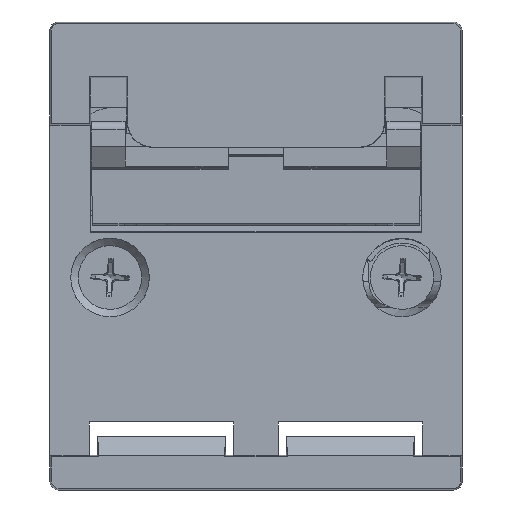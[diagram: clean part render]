
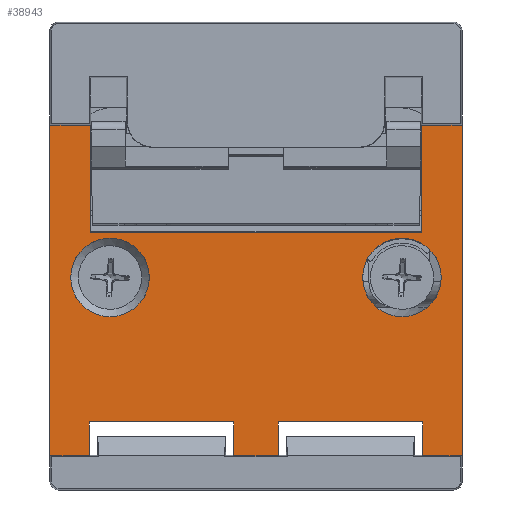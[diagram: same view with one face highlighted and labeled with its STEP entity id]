
A CAD part, front view. The second image highlights one B-rep face of the part: STEP entity #38943.
In plain terms, the highlighted planar face has unit normal (0, -1, 0).
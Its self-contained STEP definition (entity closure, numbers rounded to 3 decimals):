
#141=FACE_BOUND('',#13511,.T.);
#142=FACE_BOUND('',#13512,.T.);
#395=PLANE('',#41191);
#2308=LINE('',#55754,#6834);
#2381=LINE('',#55948,#6907);
#2383=LINE('',#55953,#6909);
#2385=LINE('',#55957,#6911);
#2390=LINE('',#55965,#6916);
#2431=LINE('',#56051,#6957);
#2433=LINE('',#56055,#6959);
#2451=LINE('',#56094,#6977);
#2452=LINE('',#56097,#6978);
#2454=LINE('',#56100,#6980);
#2459=LINE('',#56114,#6985);
#2462=LINE('',#56118,#6988);
#2463=LINE('',#56120,#6989);
#2464=LINE('',#56124,#6990);
#2467=LINE('',#56128,#6993);
#2468=LINE('',#56130,#6994);
#6834=VECTOR('',#44692,10.);
#6907=VECTOR('',#44875,10.);
#6909=VECTOR('',#44879,10.);
#6911=VECTOR('',#44883,10.);
#6916=VECTOR('',#44892,10.);
#6957=VECTOR('',#44977,10.);
#6959=VECTOR('',#44981,10.);
#6977=VECTOR('',#45027,10.);
#6978=VECTOR('',#45030,10.);
#6980=VECTOR('',#45034,10.);
#6985=VECTOR('',#45053,10.);
#6988=VECTOR('',#45058,10.);
#6989=VECTOR('',#45061,10.);
#6990=VECTOR('',#45064,10.);
#6993=VECTOR('',#45069,10.);
#6994=VECTOR('',#45072,10.);
#11534=FACE_OUTER_BOUND('',#13510,.T.);
#13510=EDGE_LOOP('',(#26925,#26926,#26927,#26928,#26929,#26930,#26931,#26932,
#26933,#26934,#26935,#26936,#26937,#26938,#26939,#26940));
#13511=EDGE_LOOP('',(#26941));
#13512=EDGE_LOOP('',(#26942));
#15482=CIRCLE('',#41086,4.575);
#15486=CIRCLE('',#41092,4.575);
#16551=VERTEX_POINT('',#55645);
#16570=VERTEX_POINT('',#55752);
#16574=VERTEX_POINT('',#55764);
#16578=VERTEX_POINT('',#55776);
#16635=VERTEX_POINT('',#55944);
#16636=VERTEX_POINT('',#55946);
#16637=VERTEX_POINT('',#55950);
#16638=VERTEX_POINT('',#55952);
#16639=VERTEX_POINT('',#55956);
#16640=VERTEX_POINT('',#55960);
#16663=VERTEX_POINT('',#56049);
#16664=VERTEX_POINT('',#56053);
#16671=VERTEX_POINT('',#56092);
#16672=VERTEX_POINT('',#56096);
#16673=VERTEX_POINT('',#56112);
#16674=VERTEX_POINT('',#56113);
#16675=VERTEX_POINT('',#56122);
#16676=VERTEX_POINT('',#56123);
#20416=EDGE_CURVE('',#16570,#16551,#2308,.T.);
#20422=EDGE_CURVE('',#16574,#16574,#15482,.F.);
#20428=EDGE_CURVE('',#16578,#16578,#15486,.F.);
#20517=EDGE_CURVE('',#16636,#16635,#2381,.T.);
#20519=EDGE_CURVE('',#16637,#16638,#2383,.T.);
#20521=EDGE_CURVE('',#16551,#16639,#2385,.T.);
#20526=EDGE_CURVE('',#16635,#16640,#2390,.T.);
#20571=EDGE_CURVE('',#16640,#16663,#2431,.T.);
#20573=EDGE_CURVE('',#16664,#16570,#2433,.T.);
#20595=EDGE_CURVE('',#16664,#16671,#2451,.T.);
#20596=EDGE_CURVE('',#16672,#16663,#2452,.T.);
#20598=EDGE_CURVE('',#16671,#16672,#2454,.T.);
#20603=EDGE_CURVE('',#16673,#16674,#2459,.F.);
#20606=EDGE_CURVE('',#16674,#16639,#2462,.F.);
#20607=EDGE_CURVE('',#16637,#16673,#2463,.F.);
#20608=EDGE_CURVE('',#16675,#16676,#2464,.F.);
#20611=EDGE_CURVE('',#16676,#16638,#2467,.F.);
#20612=EDGE_CURVE('',#16636,#16675,#2468,.F.);
#26925=ORIENTED_EDGE('',*,*,#20596,.T.);
#26926=ORIENTED_EDGE('',*,*,#20571,.F.);
#26927=ORIENTED_EDGE('',*,*,#20526,.F.);
#26928=ORIENTED_EDGE('',*,*,#20517,.F.);
#26929=ORIENTED_EDGE('',*,*,#20612,.T.);
#26930=ORIENTED_EDGE('',*,*,#20608,.T.);
#26931=ORIENTED_EDGE('',*,*,#20611,.T.);
#26932=ORIENTED_EDGE('',*,*,#20519,.F.);
#26933=ORIENTED_EDGE('',*,*,#20607,.T.);
#26934=ORIENTED_EDGE('',*,*,#20603,.T.);
#26935=ORIENTED_EDGE('',*,*,#20606,.T.);
#26936=ORIENTED_EDGE('',*,*,#20521,.F.);
#26937=ORIENTED_EDGE('',*,*,#20416,.F.);
#26938=ORIENTED_EDGE('',*,*,#20573,.F.);
#26939=ORIENTED_EDGE('',*,*,#20595,.T.);
#26940=ORIENTED_EDGE('',*,*,#20598,.T.);
#26941=ORIENTED_EDGE('',*,*,#20428,.T.);
#26942=ORIENTED_EDGE('',*,*,#20422,.T.);
#38943=ADVANCED_FACE('',(#11534,#141,#142),#395,.F.);
#41086=AXIS2_PLACEMENT_3D('',#55766,#44705,#44706);
#41092=AXIS2_PLACEMENT_3D('',#55778,#44719,#44720);
#41191=AXIS2_PLACEMENT_3D('',#56131,#45073,#45074);
#44692=DIRECTION('',(0.,0.,-1.));
#44705=DIRECTION('center_axis',(0.,-1.,0.));
#44706=DIRECTION('ref_axis',(1.,0.,0.));
#44719=DIRECTION('center_axis',(0.,-1.,0.));
#44720=DIRECTION('ref_axis',(1.,0.,0.));
#44875=DIRECTION('',(-1.,0.,0.));
#44879=DIRECTION('',(-1.,0.,0.));
#44883=DIRECTION('',(-1.,0.,0.));
#44892=DIRECTION('',(0.,0.,1.));
#44977=DIRECTION('',(1.,0.,0.));
#44981=DIRECTION('',(1.,0.,0.));
#45027=DIRECTION('',(0.,0.,-1.));
#45030=DIRECTION('',(0.,0.,1.));
#45034=DIRECTION('',(-1.,0.,0.));
#45053=DIRECTION('',(-1.,0.,0.));
#45058=DIRECTION('',(0.,0.,1.));
#45061=DIRECTION('',(0.,0.,-1.));
#45064=DIRECTION('',(-1.,0.,0.));
#45069=DIRECTION('',(0.,0.,1.));
#45072=DIRECTION('',(0.,0.,-1.));
#45073=DIRECTION('center_axis',(0.,1.,0.));
#45074=DIRECTION('ref_axis',(1.,0.,0.));
#55645=CARTESIAN_POINT('',(24.,-29.3,-10.75));
#55752=CARTESIAN_POINT('',(24.,-29.3,27.75));
#55754=CARTESIAN_POINT('',(24.,-29.3,-8.125));
#55764=CARTESIAN_POINT('',(-21.575,-29.3,10.));
#55766=CARTESIAN_POINT('Origin',(-17.,-29.3,10.));
#55776=CARTESIAN_POINT('',(12.425,-29.3,10.));
#55778=CARTESIAN_POINT('Origin',(17.,-29.3,10.));
#55944=CARTESIAN_POINT('',(-24.,-29.3,-10.75));
#55946=CARTESIAN_POINT('',(-19.425,-29.3,-10.75));
#55948=CARTESIAN_POINT('',(24.,-29.3,-10.75));
#55950=CARTESIAN_POINT('',(2.575,-29.3,-10.75));
#55952=CARTESIAN_POINT('',(-2.575,-29.3,-10.75));
#55953=CARTESIAN_POINT('',(24.,-29.3,-10.75));
#55956=CARTESIAN_POINT('',(19.425,-29.3,-10.75));
#55957=CARTESIAN_POINT('',(24.,-29.3,-10.75));
#55960=CARTESIAN_POINT('',(-24.,-29.3,27.75));
#55965=CARTESIAN_POINT('',(-24.,-29.3,25.875));
#56049=CARTESIAN_POINT('',(-19.3,-29.3,27.75));
#56051=CARTESIAN_POINT('',(-24.,-29.3,27.75));
#56053=CARTESIAN_POINT('',(19.3,-29.3,27.75));
#56055=CARTESIAN_POINT('',(-24.,-29.3,27.75));
#56092=CARTESIAN_POINT('',(19.3,-29.3,15.25));
#56094=CARTESIAN_POINT('',(19.3,-29.3,18.125));
#56096=CARTESIAN_POINT('',(-19.3,-29.3,15.25));
#56097=CARTESIAN_POINT('',(-19.3,-29.3,11.875));
#56100=CARTESIAN_POINT('',(9.65,-29.3,15.25));
#56112=CARTESIAN_POINT('',(2.575,-29.3,-6.825));
#56113=CARTESIAN_POINT('',(19.425,-29.3,-6.825));
#56114=CARTESIAN_POINT('',(9.75,-29.3,-6.825));
#56118=CARTESIAN_POINT('',(19.425,-29.3,-1.125));
#56120=CARTESIAN_POINT('',(2.575,-29.3,0.875));
#56122=CARTESIAN_POINT('',(-19.425,-29.3,-6.825));
#56123=CARTESIAN_POINT('',(-2.575,-29.3,-6.825));
#56124=CARTESIAN_POINT('',(-1.25,-29.3,-6.825));
#56128=CARTESIAN_POINT('',(-2.575,-29.3,-1.125));
#56130=CARTESIAN_POINT('',(-19.425,-29.3,0.875));
#56131=CARTESIAN_POINT('Origin',(0.,-29.3,8.5));
